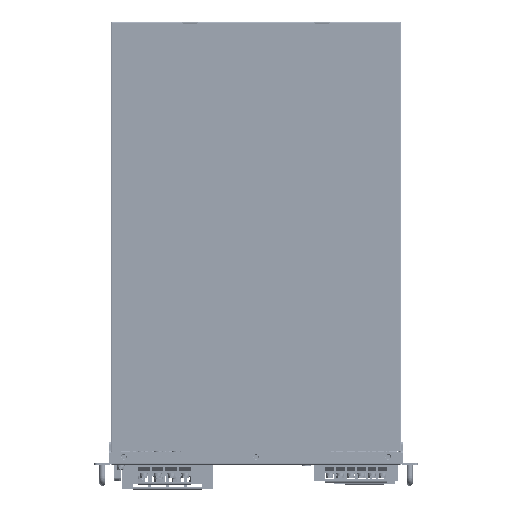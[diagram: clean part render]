
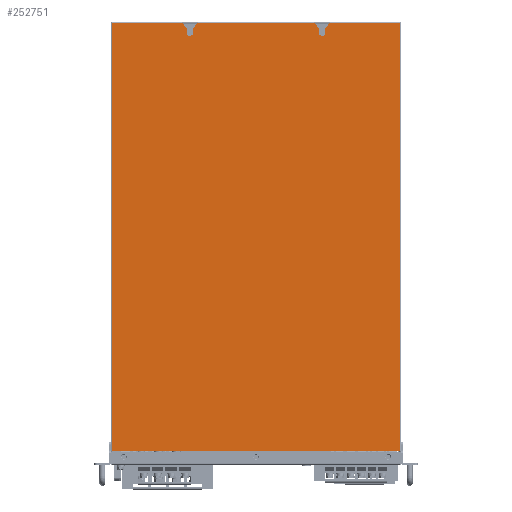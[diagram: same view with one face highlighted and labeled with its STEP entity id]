
A CAD part, top view. The second image highlights one B-rep face of the part: STEP entity #252751.
In plain terms, the highlighted planar face has unit normal (0, 0, 1).
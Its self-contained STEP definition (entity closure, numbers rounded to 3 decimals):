
#3633 = CARTESIAN_POINT ( 'NONE',  ( 0., 0., 0. ) ) ;
#6706 = CARTESIAN_POINT ( 'NONE',  ( -95., 309., 0. ) ) ;
#12853 = VERTEX_POINT ( 'NONE', #510776 ) ;
#33775 = DIRECTION ( 'NONE',  ( -1., 0., 0. ) ) ;
#35012 = EDGE_CURVE ( 'NONE', #543619, #814721, #83013, .T. ) ;
#44805 = EDGE_CURVE ( 'NONE', #302443, #131978, #452239, .T. ) ;
#52121 = VERTEX_POINT ( 'NONE', #620812 ) ;
#52831 = DIRECTION ( 'NONE',  ( 0., 1., 0. ) ) ;
#57309 = ORIENTED_EDGE ( 'NONE', *, *, #777966, .T. ) ;
#60789 = DIRECTION ( 'NONE',  ( -1., 0., 0. ) ) ;
#63229 = CARTESIAN_POINT ( 'NONE',  ( 88.5, 323.3, 0. ) ) ;
#66143 = CARTESIAN_POINT ( 'NONE',  ( -218.3, 323.3, 0. ) ) ;
#67580 = DIRECTION ( 'NONE',  ( -0.65, 0.76, 0. ) ) ;
#76309 = CARTESIAN_POINT ( 'NONE',  ( 111.5, 323.3, 0. ) ) ;
#77391 = CARTESIAN_POINT ( 'NONE',  ( -111.5, 323.3, 0. ) ) ;
#83013 = LINE ( 'NONE', #614112, #220674 ) ;
#88493 = VECTOR ( 'NONE', #346989, 1000. ) ;
#95669 = CARTESIAN_POINT ( 'NONE',  ( 218.3, 323.3, 0. ) ) ;
#95888 = ORIENTED_EDGE ( 'NONE', *, *, #226519, .T. ) ;
#98229 = VERTEX_POINT ( 'NONE', #386442 ) ;
#98763 = LINE ( 'NONE', #443734, #692120 ) ;
#103022 = DIRECTION ( 'NONE',  ( 0., 1., 0. ) ) ;
#115225 = DIRECTION ( 'NONE',  ( 0., 0., -1. ) ) ;
#119643 = DIRECTION ( 'NONE',  ( -1., 0., 0. ) ) ;
#120604 = LINE ( 'NONE', #850991, #253823 ) ;
#124144 = LINE ( 'NONE', #668320, #219225 ) ;
#131978 = VERTEX_POINT ( 'NONE', #257447 ) ;
#142400 = VECTOR ( 'NONE', #305997, 1000. ) ;
#151815 = VECTOR ( 'NONE', #60789, 1000. ) ;
#167427 = CARTESIAN_POINT ( 'NONE',  ( 105., 309., 0. ) ) ;
#170459 = VERTEX_POINT ( 'NONE', #6706 ) ;
#186888 = DIRECTION ( 'NONE',  ( 0., 1., 0. ) ) ;
#194666 = ORIENTED_EDGE ( 'NONE', *, *, #411600, .T. ) ;
#206086 = CARTESIAN_POINT ( 'NONE',  ( -111.5, 323.3, 0. ) ) ;
#211160 = DIRECTION ( 'NONE',  ( -1., 0., 0. ) ) ;
#211671 = ORIENTED_EDGE ( 'NONE', *, *, #783713, .T. ) ;
#219225 = VECTOR ( 'NONE', #867690, 1000. ) ;
#220674 = VECTOR ( 'NONE', #211160, 1000. ) ;
#226519 = EDGE_CURVE ( 'NONE', #826246, #12853, #381278, .T. ) ;
#228070 = CARTESIAN_POINT ( 'NONE',  ( 105., 315.7, 0. ) ) ;
#242628 = CARTESIAN_POINT ( 'NONE',  ( 105., 315.7, 0. ) ) ;
#248689 = CARTESIAN_POINT ( 'NONE',  ( 95., 315.7, 0. ) ) ;
#249737 = VECTOR ( 'NONE', #52831, 1000. ) ;
#252751 = ADVANCED_FACE ( 'NONE', ( #733455 ), #405947, .T. ) ;
#253823 = VECTOR ( 'NONE', #186888, 1000. ) ;
#257447 = CARTESIAN_POINT ( 'NONE',  ( 95., 315.7, 0. ) ) ;
#259976 = DIRECTION ( 'NONE',  ( 1., 0., 0. ) ) ;
#270979 = VECTOR ( 'NONE', #67580, 1000. ) ;
#278467 = AXIS2_PLACEMENT_3D ( 'NONE', #502146, #440158, #577301 ) ;
#284160 = VERTEX_POINT ( 'NONE', #661915 ) ;
#292223 = ORIENTED_EDGE ( 'NONE', *, *, #505007, .F. ) ;
#300735 = VERTEX_POINT ( 'NONE', #482084 ) ;
#302443 = VERTEX_POINT ( 'NONE', #562766 ) ;
#305997 = DIRECTION ( 'NONE',  ( 1., 0., 0. ) ) ;
#323039 = VECTOR ( 'NONE', #868633, 1000. ) ;
#326984 = ORIENTED_EDGE ( 'NONE', *, *, #514521, .F. ) ;
#338951 = EDGE_CURVE ( 'NONE', #12853, #52121, #729493, .T. ) ;
#339401 = DIRECTION ( 'NONE',  ( 0., 0., 1. ) ) ;
#346989 = DIRECTION ( 'NONE',  ( 0.65, -0.76, 0. ) ) ;
#348721 = VECTOR ( 'NONE', #708793, 1000. ) ;
#374141 = LINE ( 'NONE', #95669, #749570 ) ;
#381278 = LINE ( 'NONE', #788342, #142400 ) ;
#386442 = CARTESIAN_POINT ( 'NONE',  ( -95., 315.7, 0. ) ) ;
#401371 = LINE ( 'NONE', #609230, #151815 ) ;
#402175 = VECTOR ( 'NONE', #103022, 1000. ) ;
#404024 = VECTOR ( 'NONE', #849007, 1000. ) ;
#405947 = PLANE ( 'NONE',  #604783 ) ;
#408115 = LINE ( 'NONE', #63229, #270979 ) ;
#411600 = EDGE_CURVE ( 'NONE', #704707, #828979, #744327, .T. ) ;
#413498 = LINE ( 'NONE', #77391, #88493 ) ;
#431319 = ORIENTED_EDGE ( 'NONE', *, *, #445246, .T. ) ;
#439384 = DIRECTION ( 'NONE',  ( 0., -1., 0. ) ) ;
#440158 = DIRECTION ( 'NONE',  ( 0., 0., 1. ) ) ;
#443190 = ORIENTED_EDGE ( 'NONE', *, *, #744373, .T. ) ;
#443734 = CARTESIAN_POINT ( 'NONE',  ( -218.3, 325., 0. ) ) ;
#445246 = EDGE_CURVE ( 'NONE', #515890, #826246, #98763, .T. ) ;
#449202 = EDGE_LOOP ( 'NONE', ( #797492, #194666, #57309, #211671, #858673, #443190, #746214, #851412, #618737, #326984, #743276, #292223, #461456, #431319, #95888, #824666 ) ) ;
#452239 = LINE ( 'NONE', #248689, #402175 ) ;
#461456 = ORIENTED_EDGE ( 'NONE', *, *, #842577, .T. ) ;
#482084 = CARTESIAN_POINT ( 'NONE',  ( -105., 309., 0. ) ) ;
#502146 = CARTESIAN_POINT ( 'NONE',  ( -100., 309., 0. ) ) ;
#505007 = EDGE_CURVE ( 'NONE', #746973, #284160, #413498, .T. ) ;
#505194 = LINE ( 'NONE', #580449, #348721 ) ;
#510776 = CARTESIAN_POINT ( 'NONE',  ( 218.3, -325., 0. ) ) ;
#514521 = EDGE_CURVE ( 'NONE', #300735, #170459, #562911, .T. ) ;
#515890 = VERTEX_POINT ( 'NONE', #66143 ) ;
#543444 = EDGE_CURVE ( 'NONE', #284160, #300735, #124144, .T. ) ;
#543619 = VERTEX_POINT ( 'NONE', #849165 ) ;
#562766 = CARTESIAN_POINT ( 'NONE',  ( 95., 309., 0. ) ) ;
#562911 = CIRCLE ( 'NONE', #278467, 5. ) ;
#577301 = DIRECTION ( 'NONE',  ( 1., 0., 0. ) ) ;
#580449 = CARTESIAN_POINT ( 'NONE',  ( -88.5, 323.3, 0. ) ) ;
#583789 = CARTESIAN_POINT ( 'NONE',  ( 218.3, -325., 0. ) ) ;
#588734 = CARTESIAN_POINT ( 'NONE',  ( 100., 309., 0. ) ) ;
#602430 = AXIS2_PLACEMENT_3D ( 'NONE', #588734, #115225, #119643 ) ;
#604783 = AXIS2_PLACEMENT_3D ( 'NONE', #3633, #339401, #259976 ) ;
#609230 = CARTESIAN_POINT ( 'NONE',  ( 218.3, 323.3, 0. ) ) ;
#614112 = CARTESIAN_POINT ( 'NONE',  ( 218.3, 323.3, 0. ) ) ;
#618737 = ORIENTED_EDGE ( 'NONE', *, *, #851722, .F. ) ;
#620812 = CARTESIAN_POINT ( 'NONE',  ( 218.3, 323.3, 0. ) ) ;
#638895 = CARTESIAN_POINT ( 'NONE',  ( 111.5, 323.3, 0. ) ) ;
#651177 = VERTEX_POINT ( 'NONE', #167427 ) ;
#661915 = CARTESIAN_POINT ( 'NONE',  ( -105., 315.7, 0. ) ) ;
#668320 = CARTESIAN_POINT ( 'NONE',  ( -105., 315.7, 0. ) ) ;
#673085 = CIRCLE ( 'NONE', #602430, 5. ) ;
#692120 = VECTOR ( 'NONE', #439384, 1000. ) ;
#701065 = CARTESIAN_POINT ( 'NONE',  ( -218.3, -325., 0. ) ) ;
#704707 = VERTEX_POINT ( 'NONE', #638895 ) ;
#708793 = DIRECTION ( 'NONE',  ( 0.65, 0.76, 0. ) ) ;
#729493 = LINE ( 'NONE', #583789, #249737 ) ;
#733455 = FACE_OUTER_BOUND ( 'NONE', #449202, .T. ) ;
#743276 = ORIENTED_EDGE ( 'NONE', *, *, #543444, .F. ) ;
#744327 = LINE ( 'NONE', #76309, #323039 ) ;
#744373 = EDGE_CURVE ( 'NONE', #131978, #543619, #408115, .T. ) ;
#746214 = ORIENTED_EDGE ( 'NONE', *, *, #35012, .T. ) ;
#746973 = VERTEX_POINT ( 'NONE', #206086 ) ;
#749351 = EDGE_CURVE ( 'NONE', #52121, #704707, #401371, .T. ) ;
#749570 = VECTOR ( 'NONE', #33775, 1000. ) ;
#756442 = EDGE_CURVE ( 'NONE', #98229, #814721, #505194, .T. ) ;
#777966 = EDGE_CURVE ( 'NONE', #828979, #651177, #857723, .T. ) ;
#783713 = EDGE_CURVE ( 'NONE', #651177, #302443, #673085, .T. ) ;
#788342 = CARTESIAN_POINT ( 'NONE',  ( -220., -325., 0. ) ) ;
#793672 = CARTESIAN_POINT ( 'NONE',  ( -88.5, 323.3, 0. ) ) ;
#797492 = ORIENTED_EDGE ( 'NONE', *, *, #749351, .T. ) ;
#814721 = VERTEX_POINT ( 'NONE', #793672 ) ;
#824666 = ORIENTED_EDGE ( 'NONE', *, *, #338951, .T. ) ;
#826246 = VERTEX_POINT ( 'NONE', #701065 ) ;
#828979 = VERTEX_POINT ( 'NONE', #228070 ) ;
#842577 = EDGE_CURVE ( 'NONE', #746973, #515890, #374141, .T. ) ;
#849007 = DIRECTION ( 'NONE',  ( 0., -1., 0. ) ) ;
#849165 = CARTESIAN_POINT ( 'NONE',  ( 88.5, 323.3, 0. ) ) ;
#850991 = CARTESIAN_POINT ( 'NONE',  ( -95., 315.7, 0. ) ) ;
#851412 = ORIENTED_EDGE ( 'NONE', *, *, #756442, .F. ) ;
#851722 = EDGE_CURVE ( 'NONE', #170459, #98229, #120604, .T. ) ;
#857723 = LINE ( 'NONE', #242628, #404024 ) ;
#858673 = ORIENTED_EDGE ( 'NONE', *, *, #44805, .T. ) ;
#867690 = DIRECTION ( 'NONE',  ( 0., -1., 0. ) ) ;
#868633 = DIRECTION ( 'NONE',  ( -0.65, -0.76, 0. ) ) ;
